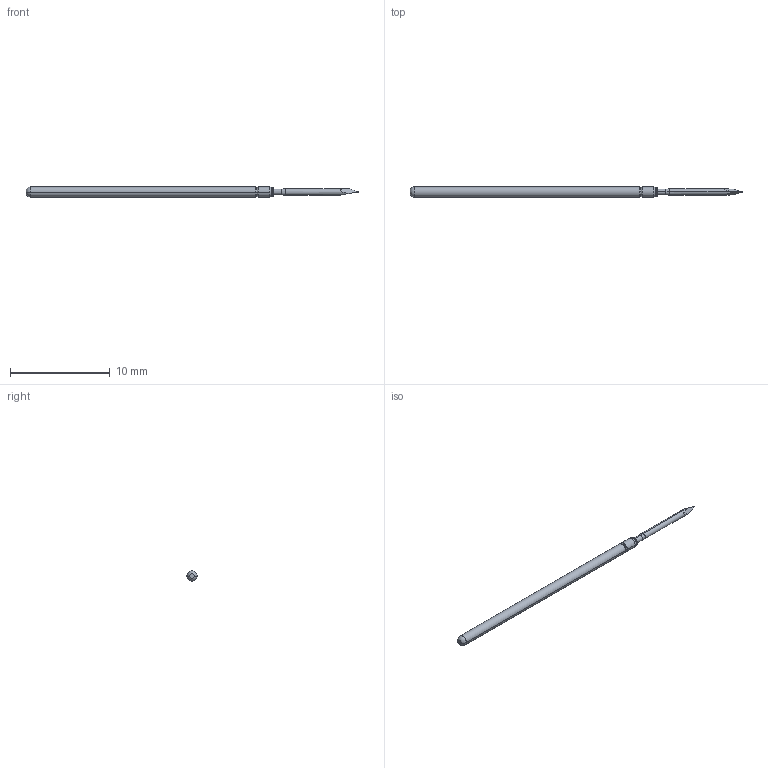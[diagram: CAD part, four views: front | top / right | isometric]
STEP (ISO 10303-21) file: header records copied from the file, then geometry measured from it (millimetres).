
FILE_DESCRIPTION (( 'STEP AP203' ), '1' );
FILE_NAME ('101024-022-922 (REST).STEP', '2022-11-18T09:46:27', ( '' ), ( '' ), 'SwSTEP 2.0', 'SolidWorks 2022', '' );
FILE_SCHEMA (( 'CONFIG_CONTROL_DESIGN' ));
Length unit declared in the file: inch
Products named in the file (1): 101024-022-922 (REST)
Bounding box: 33.27 x 1.02 x 1.02 mm (x, y, z)
Volume: 22.4 mm3; surface area: 95.7 mm2
Topology: 4 solids, 4 shells, 41 faces, 75 edges, 44 vertices
Faces by surface type: plane 15, cylinder 10, cone 10, torus 6
Entity records: 1110 total; most frequent: CARTESIAN_POINT 221, DIRECTION 185, ORIENTED_EDGE 150, AXIS2_PLACEMENT_3D 78, EDGE_CURVE 75, VERTEX_POINT 44, EDGE_LOOP 43, FACE_OUTER_BOUND 41
